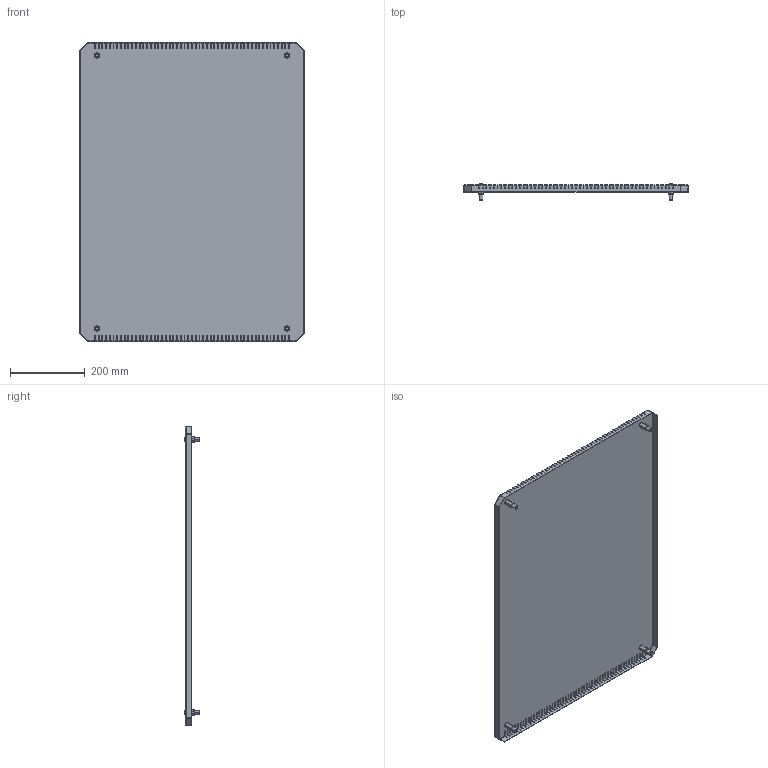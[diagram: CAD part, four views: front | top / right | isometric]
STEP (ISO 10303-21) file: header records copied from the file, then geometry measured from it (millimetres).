
FILE_DESCRIPTION (( 'STEP AP203' ), '1' );
FILE_NAME ('R 60.80 I Ïàíåëü òåëåêîììóíèêàöèîííàÿ ïîòîëî÷íàÿ.STEP', '2013-01-12T08:40:05', ( 'System' ), ( '' ), 'SwSTEP 2.0', 'SolidWorks 2012', '' );
FILE_SCHEMA (( 'CONFIG_CONTROL_DESIGN' ));
Length unit declared in the file: millimetre
Products named in the file (1): R 60.80 I Ïàíåëü òåëåêîììóíèêàöèîííàÿ ïîòîëî÷íàÿ
Bounding box: 600 x 42.72 x 800 mm (x, y, z)
Volume: 638299 mm3; surface area: 1052603.9 mm2
Topology: 5 solids, 9 shells, 1354 faces, 3632 edges, 2088 vertices
Faces by surface type: plane 990, cylinder 268, cone 56, bspline 16, torus 16, sphere 8
Entity records: 42229 total; most frequent: CARTESIAN_POINT 8455, ORIENTED_EDGE 7232, DIRECTION 6816, EDGE_CURVE 3616, VECTOR 2858, LINE 2858, VERTEX_POINT 2088, AXIS2_PLACEMENT_3D 1979
